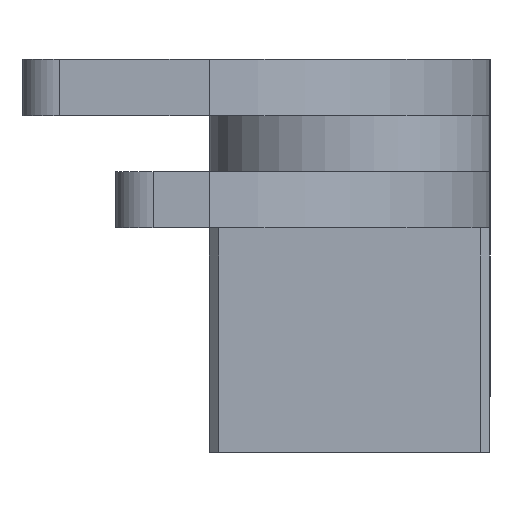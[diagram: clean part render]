
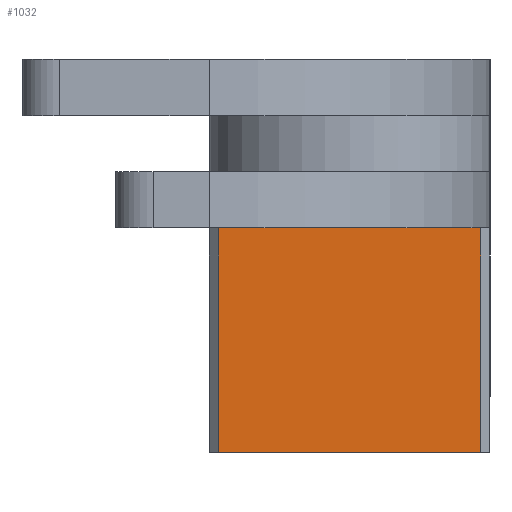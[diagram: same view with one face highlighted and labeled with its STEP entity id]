
A CAD part, left-side view. The second image highlights one B-rep face of the part: STEP entity #1032.
In plain terms, the highlighted planar face has unit normal (-1, 0, 0).
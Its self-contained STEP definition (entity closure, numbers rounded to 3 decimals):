
#134=FACE_OUTER_BOUND('',#192,.T.);
#192=EDGE_LOOP('',(#721,#722,#723,#724));
#268=LINE('',#1569,#366);
#281=LINE('',#1595,#379);
#282=LINE('',#1597,#380);
#283=LINE('',#1598,#381);
#366=VECTOR('',#1245,10.);
#379=VECTOR('',#1262,10.);
#380=VECTOR('',#1265,10.);
#381=VECTOR('',#1266,10.);
#464=VERTEX_POINT('',#1566);
#465=VERTEX_POINT('',#1568);
#473=VERTEX_POINT('',#1588);
#476=VERTEX_POINT('',#1593);
#560=EDGE_CURVE('',#464,#465,#268,.T.);
#573=EDGE_CURVE('',#476,#473,#281,.T.);
#574=EDGE_CURVE('',#473,#464,#282,.T.);
#575=EDGE_CURVE('',#476,#465,#283,.T.);
#721=ORIENTED_EDGE('',*,*,#560,.F.);
#722=ORIENTED_EDGE('',*,*,#574,.F.);
#723=ORIENTED_EDGE('',*,*,#573,.F.);
#724=ORIENTED_EDGE('',*,*,#575,.T.);
#1000=PLANE('',#1130);
#1032=ADVANCED_FACE('',(#134),#1000,.T.);
#1130=AXIS2_PLACEMENT_3D('',#1596,#1263,#1264);
#1245=DIRECTION('',(0.,0.,1.));
#1262=DIRECTION('',(0.,0.,-1.));
#1263=DIRECTION('center_axis',(-1.,0.,0.));
#1264=DIRECTION('ref_axis',(0.,-1.,0.));
#1265=DIRECTION('',(0.,1.,0.));
#1266=DIRECTION('',(0.,1.,0.));
#1566=CARTESIAN_POINT('',(-50.,-0.5,0.));
#1568=CARTESIAN_POINT('',(-50.,-0.5,12.));
#1569=CARTESIAN_POINT('',(-50.,-0.5,0.));
#1588=CARTESIAN_POINT('',(-50.,-14.5,0.));
#1593=CARTESIAN_POINT('',(-50.,-14.5,12.));
#1595=CARTESIAN_POINT('',(-50.,-14.5,0.));
#1596=CARTESIAN_POINT('Origin',(-50.,0.,0.));
#1597=CARTESIAN_POINT('',(-50.,-3.75,0.));
#1598=CARTESIAN_POINT('',(-50.,0.,12.));
